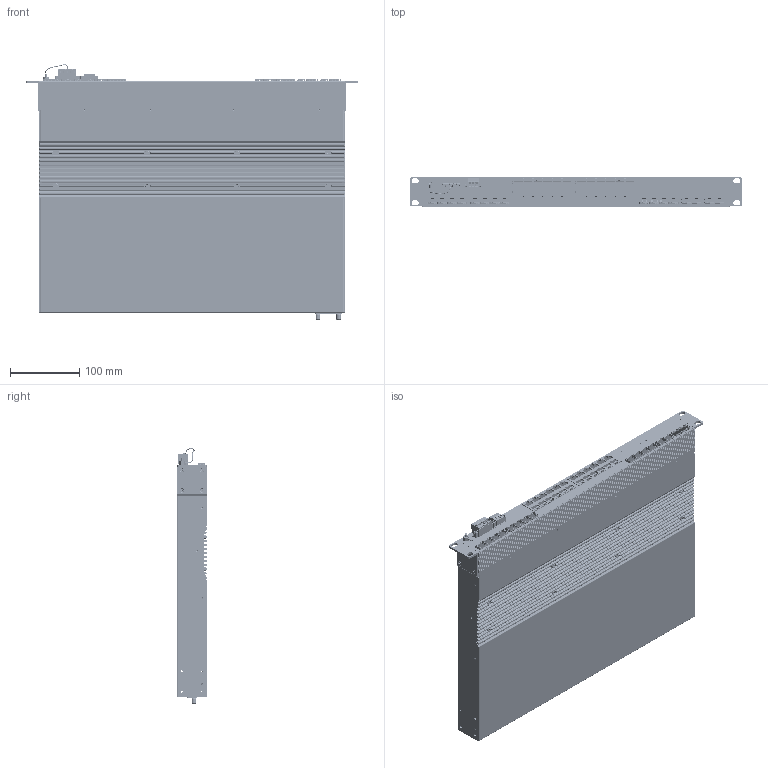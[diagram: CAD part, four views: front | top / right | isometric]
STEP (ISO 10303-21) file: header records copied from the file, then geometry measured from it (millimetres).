
FILE_DESCRIPTION(('TFLEX Exchange Step'),'2;1');
FILE_NAME('STK-EX-01-4000-PA11QCC.stp', '2025-01-30T13:37:26+03:00',('Yuriy Romanov'),('Unknown organisation'),'TFLEX Exchange 2023.2','T-FLEX CAD','Unknown authorisation');
FILE_SCHEMA( ('AUTOMOTIVE_DESIGN { 1 0 10303 214 1 1 1 1 }') );
Length unit declared in the file: millimetre
Products named in the file (1): STK-EX-01-4000-PA11QCC
Bounding box: 480 x 43.8 x 369.24 mm (x, y, z)
Volume: 671703.6 mm3; surface area: 14670229.7 mm2
Topology: 271 solids, 272 shells, 15296 faces, 44691 edges, 29621 vertices
Faces by surface type: plane 8532, cylinder 6147, cone 450, bspline 67, sphere 56, torus 42, extrusion 2
Full cylindrical faces by diameter (mm): 0.457 x1, 1 x10, 1.14 x22, 2 x210, 2.459 x1, 2.5 x196, 3 x81, 3.5 x222, 3.8 x2, 3.85 x3, 3.9 x2, 3.95 x6, 4 x19, 4.2 x47, 4.4 x2, 4.5 x9, 5 x6, 5.247 x2, 5.4 x46, 5.5 x25, 6 x8, 6.3 x14, 6.8 x2, 10 x1
Entity records: 535495 total; most frequent: CARTESIAN_POINT 116946, ORIENTED_EDGE 89242, DIRECTION 86676, EDGE_CURVE 44621, VERTEX_POINT 29621, AXIS2_PLACEMENT_3D 29191, VECTOR 28294, LINE 28292
